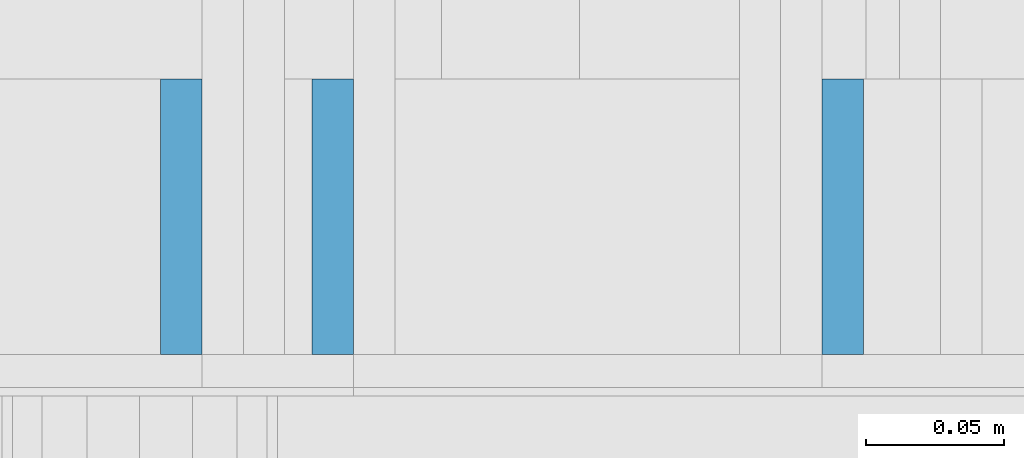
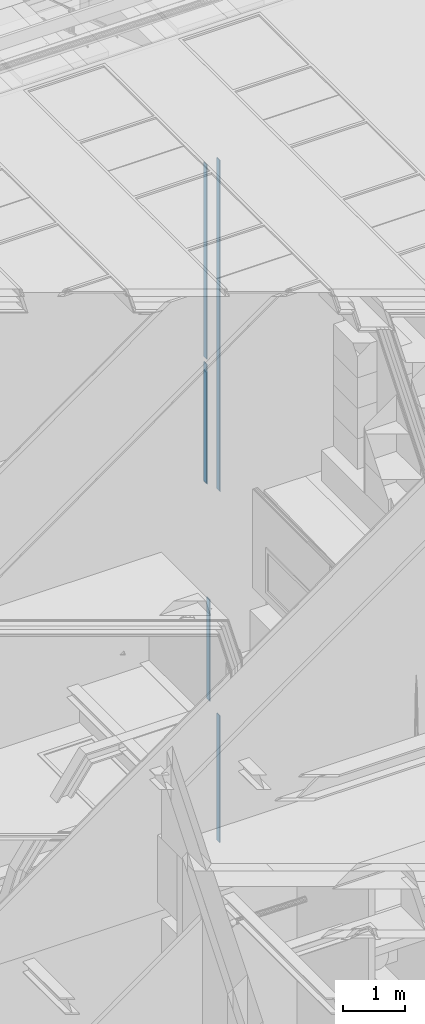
# One storey, part 116 of 583: 7 building element parts, 2 elements without a shape of their own.
"""IFC2X3 building model written with IfcOpenShell, lengths in metres."""

from ifc_helpers import new_model, entity, si_unit, converted_unit, derived_unit, money_unit, direction, frame, frame_2d, origin_with_axes, place, context, subcontext, project, spatial, polyline, rectangle, outline, extrude, material, type_object, element, aggregate, save


model = new_model("IFC2X3")

# Units and contexts
model_context = context("Model", 3, precision=1e-05, world=origin_with_axes(), true_north=direction((0.0, 1.0)))
body_context = subcontext(model_context, "Body", "Model", "MODEL_VIEW", scale=1.0)
ifc_project = project(units=[si_unit("LENGTHUNIT", "METRE"), si_unit("AREAUNIT", "SQUARE_METRE"), si_unit("VOLUMEUNIT", "CUBIC_METRE"), si_unit("ABSORBEDDOSEUNIT", "GRAY"), si_unit("AMOUNTOFSUBSTANCEUNIT", "MOLE"), si_unit("DOSEEQUIVALENTUNIT", "SIEVERT"), si_unit("ELECTRICCAPACITANCEUNIT", "FARAD"), si_unit("ELECTRICCHARGEUNIT", "COULOMB"), si_unit("ELECTRICCONDUCTANCEUNIT", "SIEMENS"), si_unit("ELECTRICCURRENTUNIT", "AMPERE"), si_unit("ELECTRICRESISTANCEUNIT", "OHM"), si_unit("ELECTRICVOLTAGEUNIT", "VOLT"), si_unit("ENERGYUNIT", "JOULE"), si_unit("FORCEUNIT", "NEWTON"), si_unit("FREQUENCYUNIT", "HERTZ"), si_unit("ILLUMINANCEUNIT", "LUX"), si_unit("INDUCTANCEUNIT", "HENRY"), si_unit("LUMINOUSFLUXUNIT", "LUMEN"), si_unit("LUMINOUSINTENSITYUNIT", "CANDELA"), si_unit("MAGNETICFLUXDENSITYUNIT", "TESLA"), si_unit("MAGNETICFLUXUNIT", "WEBER"), si_unit("MASSUNIT", "GRAM"), converted_unit("PLANEANGLEUNIT", "degree", entity("IfcReal", 0.0174532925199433), si_unit("PLANEANGLEUNIT", "RADIAN"), dimensions=[0, 0, 0, 0, 0, 0, 0]), si_unit("POWERUNIT", "WATT"), si_unit("PRESSUREUNIT", "PASCAL"), si_unit("RADIOACTIVITYUNIT", "BECQUEREL"), si_unit("SOLIDANGLEUNIT", "STERADIAN"), si_unit("THERMODYNAMICTEMPERATUREUNIT", "KELVIN"), si_unit("TIMEUNIT", "SECOND"), derived_unit("ACCELERATIONUNIT", [(si_unit("LENGTHUNIT", "METRE"), 1), (si_unit("TIMEUNIT", "SECOND"), -2)]), derived_unit("ANGULARVELOCITYUNIT", [(converted_unit("PLANEANGLEUNIT", "degree", entity("IfcReal", 0.0174532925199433), si_unit("PLANEANGLEUNIT", "RADIAN"), dimensions=[0, 0, 0, 0, 0, 0, 0]), 1), (si_unit("TIMEUNIT", "SECOND"), -1)]), derived_unit("CURVATUREUNIT", [(converted_unit("PLANEANGLEUNIT", "degree", entity("IfcReal", 0.0174532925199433), si_unit("PLANEANGLEUNIT", "RADIAN"), dimensions=[0, 0, 0, 0, 0, 0, 0]), 1), (si_unit("LENGTHUNIT", "METRE"), -1)]), derived_unit("DYNAMICVISCOSITYUNIT", [(si_unit("PRESSUREUNIT", "PASCAL"), 1), (si_unit("TIMEUNIT", "SECOND"), 1)]), derived_unit("HEATFLUXDENSITYUNIT", [(si_unit("POWERUNIT", "WATT"), 1), (si_unit("LENGTHUNIT", "METRE"), -2)]), derived_unit("HEATINGVALUEUNIT", [(si_unit("ENERGYUNIT", "JOULE"), 1), (si_unit("MASSUNIT", "GRAM"), -1)]), derived_unit("INTEGERCOUNTRATEUNIT", [(si_unit("TIMEUNIT", "SECOND"), -1)]), derived_unit("IONCONCENTRATIONUNIT", [(si_unit("MASSUNIT", "GRAM"), 1), (si_unit("VOLUMEUNIT", "CUBIC_METRE"), -1)]), derived_unit("ISOTHERMALMOISTURECAPACITYUNIT", [(si_unit("VOLUMEUNIT", "CUBIC_METRE"), 1), (si_unit("MASSUNIT", "GRAM"), -1)]), derived_unit("KINEMATICVISCOSITYUNIT", [(si_unit("AREAUNIT", "SQUARE_METRE"), 1), (si_unit("TIMEUNIT", "SECOND"), -1)]), derived_unit("LINEARFORCEUNIT", [(si_unit("FORCEUNIT", "NEWTON"), 1), (si_unit("LENGTHUNIT", "METRE"), -1)]), derived_unit("LINEARMOMENTUNIT", [(si_unit("FORCEUNIT", "NEWTON"), 1), (si_unit("LENGTHUNIT", "METRE"), -1)]), derived_unit("LINEARSTIFFNESSUNIT", [(si_unit("FORCEUNIT", "NEWTON"), 1), (si_unit("LENGTHUNIT", "METRE"), -1)]), derived_unit("LINEARVELOCITYUNIT", [(si_unit("LENGTHUNIT", "METRE"), 1), (si_unit("TIMEUNIT", "SECOND"), -1)]), derived_unit("LUMINOUSINTENSITYDISTRIBUTIONUNIT", [(si_unit("LUMINOUSINTENSITYUNIT", "CANDELA"), 1), (si_unit("LUMINOUSFLUXUNIT", "LUMEN"), -1)]), derived_unit("MASSDENSITYUNIT", [(si_unit("MASSUNIT", "GRAM"), 1), (si_unit("VOLUMEUNIT", "CUBIC_METRE"), -1)]), derived_unit("MASSFLOWRATEUNIT", [(si_unit("MASSUNIT", "GRAM"), 1), (si_unit("TIMEUNIT", "SECOND"), -1)]), derived_unit("MASSPERLENGTHUNIT", [(si_unit("MASSUNIT", "GRAM"), 1), (si_unit("LENGTHUNIT", "METRE"), -1)]), derived_unit("MODULUSOFELASTICITYUNIT", [(si_unit("FORCEUNIT", "NEWTON"), 1), (si_unit("AREAUNIT", "SQUARE_METRE"), -1)]), derived_unit("MODULUSOFLINEARSUBGRADEREACTIONUNIT", [(si_unit("FORCEUNIT", "NEWTON"), 1), (si_unit("LENGTHUNIT", "METRE"), -2)]), derived_unit("MODULUSOFROTATIONALSUBGRADEREACTIONUNIT", [(si_unit("FORCEUNIT", "NEWTON"), 1), (si_unit("LENGTHUNIT", "METRE"), 1)]), derived_unit("MODULUSOFSUBGRADEREACTIONUNIT", [(si_unit("FORCEUNIT", "NEWTON"), 1), (si_unit("VOLUMEUNIT", "CUBIC_METRE"), -1)]), derived_unit("MOISTUREDIFFUSIVITYUNIT", [(si_unit("VOLUMEUNIT", "CUBIC_METRE"), 1), (si_unit("TIMEUNIT", "SECOND"), -1)]), derived_unit("MOLECULARWEIGHTUNIT", [(si_unit("MASSUNIT", "GRAM"), 1), (si_unit("AMOUNTOFSUBSTANCEUNIT", "MOLE"), -1)]), derived_unit("PLANARFORCEUNIT", [(si_unit("FORCEUNIT", "NEWTON"), 1), (si_unit("LENGTHUNIT", "METRE"), -2)]), derived_unit("ROTATIONALFREQUENCYUNIT", [(si_unit("TIMEUNIT", "SECOND"), -1)]), derived_unit("ROTATIONALMASSUNIT", [(si_unit("MASSUNIT", "GRAM"), 1), (si_unit("LENGTHUNIT", "METRE"), 2)]), derived_unit("ROTATIONALSTIFFNESSUNIT", [(si_unit("FORCEUNIT", "NEWTON"), 1), (si_unit("LENGTHUNIT", "METRE"), 1), (converted_unit("PLANEANGLEUNIT", "degree", entity("IfcReal", 0.0174532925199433), si_unit("PLANEANGLEUNIT", "RADIAN"), dimensions=[0, 0, 0, 0, 0, 0, 0]), -1)]), derived_unit("SECTIONAREAINTEGRALUNIT", [(si_unit("LENGTHUNIT", "METRE"), 5)]), derived_unit("SECTIONMODULUSUNIT", [(si_unit("LENGTHUNIT", "METRE"), 3)]), derived_unit("SHEARMODULUSUNIT", [(si_unit("FORCEUNIT", "NEWTON"), 1), (si_unit("AREAUNIT", "SQUARE_METRE"), -1)]), derived_unit("SOUNDPOWERUNIT", [(si_unit("ENERGYUNIT", "JOULE"), 1), (si_unit("TIMEUNIT", "SECOND"), -1)]), derived_unit("SPECIFICHEATCAPACITYUNIT", [(si_unit("FORCEUNIT", "NEWTON"), 1), (si_unit("MASSUNIT", "GRAM"), -1), (si_unit("THERMODYNAMICTEMPERATUREUNIT", "KELVIN"), -1)]), derived_unit("TEMPERATUREGRADIENTUNIT", [(si_unit("THERMODYNAMICTEMPERATUREUNIT", "KELVIN"), 1), (si_unit("LENGTHUNIT", "METRE"), -1)]), derived_unit("THERMALADMITTANCEUNIT", [(si_unit("POWERUNIT", "WATT"), 1), (si_unit("AREAUNIT", "SQUARE_METRE"), -1), (si_unit("THERMODYNAMICTEMPERATUREUNIT", "KELVIN"), -1)]), derived_unit("THERMALCONDUCTANCEUNIT", [(si_unit("POWERUNIT", "WATT"), 1), (si_unit("LENGTHUNIT", "METRE"), -1), (si_unit("THERMODYNAMICTEMPERATUREUNIT", "KELVIN"), -1)]), derived_unit("THERMALEXPANSIONCOEFFICIENTUNIT", [(si_unit("THERMODYNAMICTEMPERATUREUNIT", "KELVIN"), -1)]), derived_unit("THERMALRESISTANCEUNIT", [(si_unit("AREAUNIT", "SQUARE_METRE"), 1), (si_unit("POWERUNIT", "WATT"), -1)]), derived_unit("THERMALTRANSMITTANCEUNIT", [(si_unit("POWERUNIT", "WATT"), 1), (si_unit("AREAUNIT", "SQUARE_METRE"), -1), (si_unit("THERMODYNAMICTEMPERATUREUNIT", "KELVIN"), -1)]), derived_unit("TORQUEUNIT", [(si_unit("FORCEUNIT", "NEWTON"), 1), (si_unit("LENGTHUNIT", "METRE"), 1)]), derived_unit("VAPORPERMEABILITYUNIT", [(si_unit("MASSUNIT", "GRAM"), 1), (si_unit("TIMEUNIT", "SECOND"), -1)]), derived_unit("VOLUMETRICFLOWRATEUNIT", [(si_unit("VOLUMEUNIT", "CUBIC_METRE"), 1), (si_unit("TIMEUNIT", "SECOND"), -1)]), derived_unit("WARPINGCONSTANTUNIT", [(si_unit("LENGTHUNIT", "METRE"), 6)]), derived_unit("WARPINGMOMENTUNIT", [(si_unit("FORCEUNIT", "NEWTON"), 1), (si_unit("LENGTHUNIT", "METRE"), 2)]), money_unit("GBP")], contexts=[model_context])

# Site, building, storey
site_placement = place(None, origin_with_axes())
site = spatial("IfcSite", under=ifc_project, at=site_placement, Name="Site", CompositionType="ELEMENT")
building_placement = place(site_placement, origin_with_axes())
building = spatial("IfcBuilding", under=site, at=building_placement, Name="Building01", CompositionType="ELEMENT")
storey_placement = place(building_placement, frame((0.0, 0.0, 20.78), z_axis=(0.0, 0.0, 1.0), x_axis=(1.0, 0.0, 0.0)))
storey = spatial("IfcBuildingStorey", under=building, at=storey_placement, Name="RL", CompositionType="ELEMENT", Elevation=20.78)

# Wall, building element parts
wall_type_1 = type_object("IfcWallType", Name="SHE_A-Walls_Type01c_Partywall_225mm_twin_tall", PredefinedType="NOTDEFINED")
wall_1_placement = place(storey_placement, frame((8.732, 12.13, 5.664), z_axis=(0.0, 1.0, 0.0), x_axis=(0.0, 0.0, -1.0)))
wall_1 = element("IfcWall", 1, at=wall_1_placement, inside=storey, type_object=wall_type_1, Name="1C", ObjectType="SHE_A-Walls_Type01c_Partywall_225mm_twin_tall")
ifc_material = material(Name="A_BSUK_Walls_Timber")
placement_1 = place(wall_1_placement, origin_with_axes())
building_element_part_1 = element("IfcBuildingElementPart", 2, at=placement_1, material=ifc_material, Name="2", context=body_context, shape_type="SweptSolid", body=[
    extrude(outline(polyline([(6.306339, 0.152), (4.132339, 0.152), (4.117339, 0.137), (6.321339, 0.137), (6.306339, 0.152)])), frame((0.0, 0.0, 0.015), z_axis=(0.0, 0.0, 1.0), x_axis=(1.0, 0.0, 0.0)), (0.0, 0.0, 1.0), 0.1),
])
building_element_part_2 = element("IfcBuildingElementPart", 3, at=placement_1, material=ifc_material, Name="7", context=body_context, shape_type="SweptSolid", body=[
    extrude(outline(polyline([(6.546339, -0.088), (0.042, -0.088), (0.042, -0.103), (6.561339, -0.103), (6.546339, -0.088)])), frame((0.0, 0.0, 0.015), z_axis=(0.0, 0.0, 1.0), x_axis=(1.0, 0.0, 0.0)), (0.0, 0.0, 1.0), 0.1),
])
building_element_part_3 = element("IfcBuildingElementPart", 4, at=placement_1, material=ifc_material, Name="8", context=body_context, shape_type="SweptSolid", body=[
    extrude(outline(polyline([(6.306339, 0.152), (4.132339, 0.152), (4.117339, 0.137), (6.321339, 0.137), (6.306339, 0.152)])), frame((0.0, 0.0, 0.015), z_axis=(0.0, 0.0, 1.0), x_axis=(1.0, 0.0, 0.0)), (0.0, 0.0, 1.0), 0.1),
])
building_element_part_4 = element("IfcBuildingElementPart", 5, at=placement_1, material=ifc_material, Name="9", context=body_context, shape_type="SweptSolid", body=[
    extrude(rectangle(XDim=3.830339, YDim=0.015, at=frame_2d((1.957169, 0.1445), x_axis=(-1.0, 0.0))), frame((0.0, 0.0, 0.015), z_axis=(0.0, 0.0, 1.0), x_axis=(1.0, 0.0, 0.0)), (0.0, 0.0, 1.0), 0.1),
])
building_element_part_5 = element("IfcBuildingElementPart", 6, at=placement_1, material=ifc_material, Name="10", context=body_context, shape_type="SweptSolid", body=[
    extrude(outline(polyline([(6.321339, 0.152), (3.967339, 0.152), (3.967339, 0.137), (6.336339, 0.137), (6.321339, 0.152)])), frame((0.0, 0.0, 0.015), z_axis=(0.0, 0.0, 1.0), x_axis=(1.0, 0.0, 0.0)), (0.0, 0.0, 1.0), 0.1),
])
aggregate(wall_1, [building_element_part_1, building_element_part_2, building_element_part_3, building_element_part_4, building_element_part_5])

wall_type_2 = type_object("IfcWallType", Name="SHE_A-Walls_Type03a_BlockworkWall_170mm", PredefinedType="NOTDEFINED")
wall_2_placement = place(storey_placement, frame((8.805, 12.13, -2.795), z_axis=(0.0, 1.0, 0.0), x_axis=(0.0, 0.0, -1.0)))
wall_2 = element("IfcWall", 7, at=wall_2_placement, inside=storey, type_object=wall_type_2, Name="4B", ObjectType="SHE_A-Walls_Type03a_BlockworkWall_170mm")
placement_2 = place(wall_2_placement, origin_with_axes())
building_element_part_6 = element("IfcBuildingElementPart", 8, at=placement_2, material=ifc_material, Name="2", context=body_context, shape_type="SweptSolid", body=[
    extrude(rectangle(XDim=2.0, YDim=0.015, at=frame_2d((1.155, 0.1625), x_axis=(-1.0, 0.0))), frame((0.0, 0.0, 0.015), z_axis=(0.0, 0.0, 1.0), x_axis=(1.0, 0.0, 0.0)), (0.0, 0.0, 1.0), 0.1),
])
building_element_part_7 = element("IfcBuildingElementPart", 9, at=placement_2, material=ifc_material, Name="8", context=body_context, shape_type="SweptSolid", body=[
    extrude(rectangle(XDim=2.494547, YDim=0.015, at=frame_2d((3.749142, -0.0225), x_axis=(-1.0, 0.0))), frame((0.0, 0.0, 0.015), z_axis=(0.0, 0.0, 1.0), x_axis=(1.0, 0.0, 0.0)), (0.0, 0.0, 1.0), 0.1),
])
aggregate(wall_2, [building_element_part_6, building_element_part_7])

save(model, "model.ifc")
